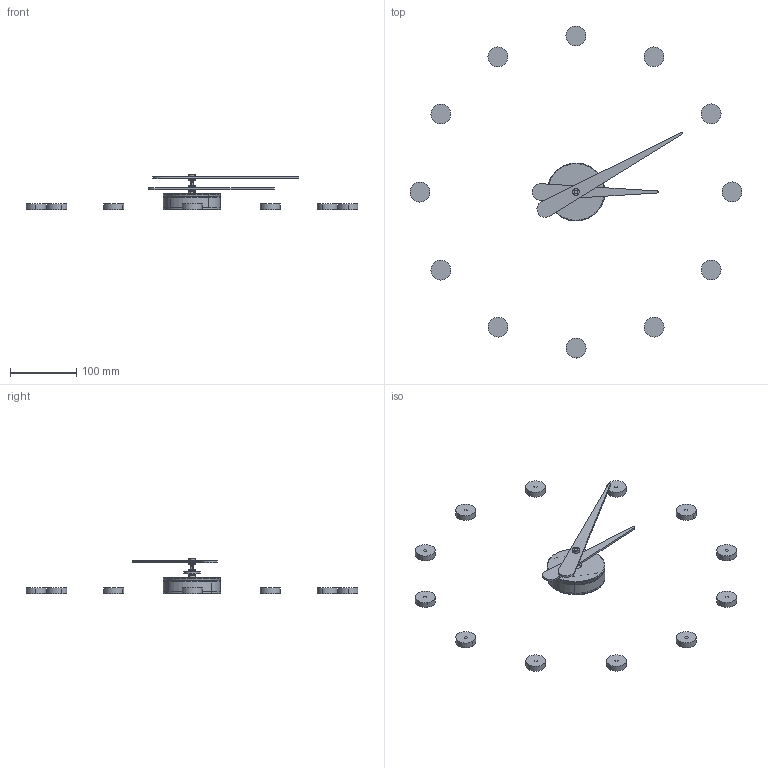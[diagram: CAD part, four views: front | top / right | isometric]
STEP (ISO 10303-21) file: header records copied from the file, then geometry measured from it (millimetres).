
FILE_DESCRIPTION (( 'STEP AP214' ), '1' );
FILE_NAME ('Rodón mini L.STEP', '2016-09-15T09:46:26', ( '' ), ( '' ), 'SwSTEP 2.0', 'SolidWorks 2013', '' );
FILE_SCHEMA (( 'AUTOMOTIVE_DESIGN' ));
Length unit declared in the file: millimetre
Products named in the file (18): Aguja_minutera_n_Rodón mini; Esparrago; Caja_acero_inox_Rodón mini; Mecanismo; Tuerca 1.5; aguja_horaria_n; Embellecedor; Pieza_caja_superior; Aguja_horaria_n_Rodón mini; aguja_minutera_n; Arandela; Pieza_caja_inferior; Pieza2; Señal_horaria_rodón; Rodón mini L; Tuerca; Pasante; Arandela_2
Assembly tree (28 placements, depth 3):
  Rodón mini L
    Aguja_horaria_n_Rodón mini
      Arandela_2
      Tuerca
      Pasante
      aguja_horaria_n
    Aguja_minutera_n_Rodón mini
      aguja_minutera_n
      Arandela
      Embellecedor
      Esparrago
      Tuerca 1.5
    Caja_acero_inox_Rodón mini
      Pieza_caja_inferior
      Pieza_caja_superior
      Mecanismo
      Pieza2
    Señal_horaria_rodón  x12
Bounding box: 500.3 x 500.3 x 53.8 mm (x, y, z)
Volume: 154406.4 mm3; surface area: 102230.9 mm2
Topology: 25 solids, 25 shells, 252 faces, 494 edges, 314 vertices
Faces by surface type: cylinder 122, plane 92, torus 26, cone 12
Entity records: 5524 total; most frequent: DIRECTION 992, CARTESIAN_POINT 797, ORIENTED_EDGE 724, AXIS2_PLACEMENT_3D 421, EDGE_CURVE 362, VERTEX_POINT 226, CIRCLE 212, EDGE_LOOP 206
